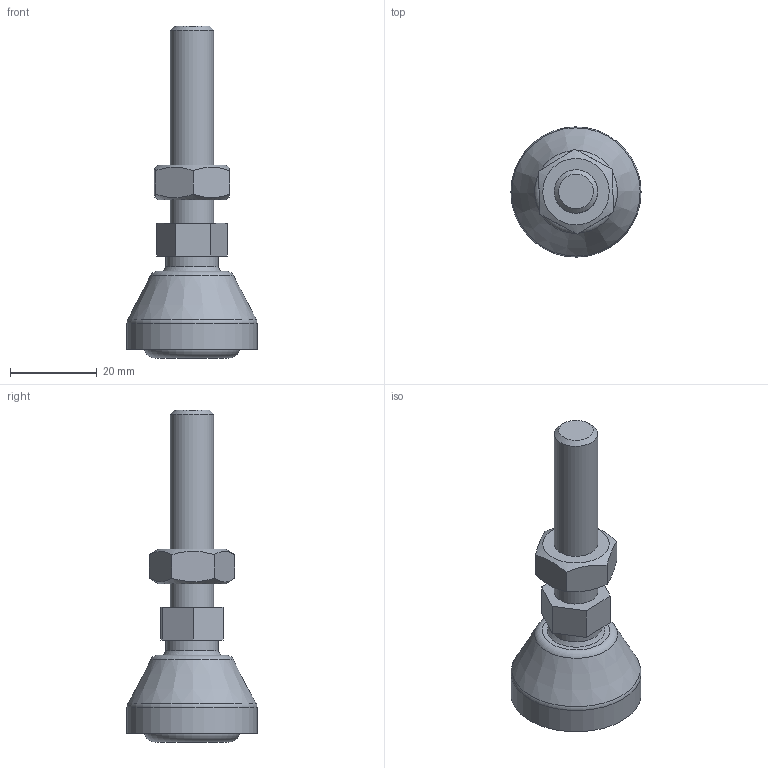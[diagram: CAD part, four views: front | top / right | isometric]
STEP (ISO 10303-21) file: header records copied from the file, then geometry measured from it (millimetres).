
FILE_DESCRIPTION((''),'2;1');
FILE_NAME('C:\Documents and Settings\Administrator\My Documents\Andys Backup Data\ANDY''S INVENTOR\INVENTOR LIBRARIES\MINITEC INVENTOR LIBRARIES\FEET WHEELS FLOOR FASTENING SUPPORTS\A PACKED FILES\STEP FILES\21.1852 LEVELING FOOT M10 30mm BASE.stp','2010-06-28T09:20:13',('Administrator'),(''),'Autodesk Inventor 2009','Autodesk Inventor 2009','');
FILE_SCHEMA(('CONFIG_CONTROL_DESIGN'));
Length unit declared in the file: millimetre
Products named in the file (5): 21.1852 LEVELING FOOT M10 30mm BASE; ANTI-SKID PAD 30mm; PAD 30mm PLASTIC; THREADED STUD 10mm; M10 HEX NUT DIN 934
Assembly tree (4 placements, depth 2):
  21.1852 LEVELING FOOT M10 30mm BASE
    ANTI-SKID PAD 30mm
    PAD 30mm PLASTIC
    THREADED STUD 10mm
    M10 HEX NUT DIN 934
Bounding box: 30 x 30 x 76.5 mm (x, y, z)
Volume: 19066.1 mm3; surface area: 8121.8 mm2
Topology: 4 solids, 4 shells, 43 faces, 82 edges, 52 vertices
Faces by surface type: plane 24, cylinder 7, cone 6, torus 3, bspline 2, sphere 1
Full cylindrical faces by diameter (mm): 10 x1, 12 x1, 15 x2, 22 x2, 30 x1
Entity records: 1145 total; most frequent: CARTESIAN_POINT 249, DIRECTION 176, ORIENTED_EDGE 124, AXIS2_PLACEMENT_3D 76, EDGE_LOOP 68, EDGE_CURVE 62, VERTEX_POINT 50, FACE_OUTER_BOUND 43
